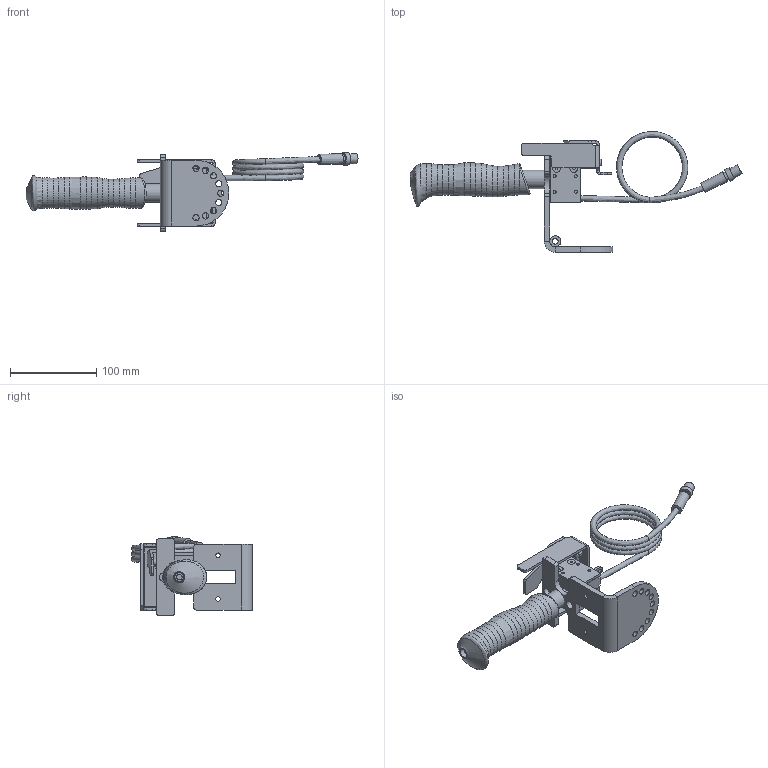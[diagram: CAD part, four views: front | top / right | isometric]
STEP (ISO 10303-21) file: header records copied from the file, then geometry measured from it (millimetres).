
FILE_DESCRIPTION(/* description */ (''),/* implementation_level */ '2;1');
FILE_NAME(/* name */ 'FDEPA9050.001.stp',/* time_stamp */ '2024-03-12T14:52:47-04:00',/* author */ (''),/* organization */ (''),/* preprocessor_version */ 'ST-DEVELOPER v18.102',/* originating_system */ 'SIEMENS PLM Software NX 2027',/* authorisation */ '');
FILE_SCHEMA (('AUTOMOTIVE_DESIGN { 1 0 10303 214 3 1 1 1 }'));
Length unit declared in the file: millimetre
Products named in the file (1): FDEPA9050.001
Bounding box: 384.39 x 139.7 x 91.52 mm (x, y, z)
Volume: 314747.7 mm3; surface area: 156124 mm2
Topology: 18 solids, 19 shells, 365 faces, 824 edges, 524 vertices
Faces by surface type: plane 187, cylinder 123, bspline 32, cone 18, torus 2, sphere 2, extrusion 1
Full cylindrical faces by diameter (mm): 0.381 x5, 3.3 x2, 3.454 x10, 3.969 x2, 4.166 x2, 4.191 x2, 4.305 x2, 4.366 x2, 4.763 x1, 5.105 x2, 6.35 x4, 6.528 x1, 6.747 x2, 6.985 x1, 7.144 x9, 7.874 x2, 7.95 x1, 8.128 x4, 9.525 x3, 10.312 x1, 10.922 x1, 11.906 x1, 11.938 x1, 12.7 x6, 14.605 x1, 15.875 x1, 15.893 x1, 19.431 x1, 21.431 x1, 21.844 x1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
Entity records: 16055 total; most frequent: CARTESIAN_POINT 6129, DIRECTION 1553, ORIENTED_EDGE 1360, EDGE_CURVE 680, EDGE_LOOP 595, AXIS2_PLACEMENT_3D 595, VERTEX_POINT 503, FACE_BOUND 409
